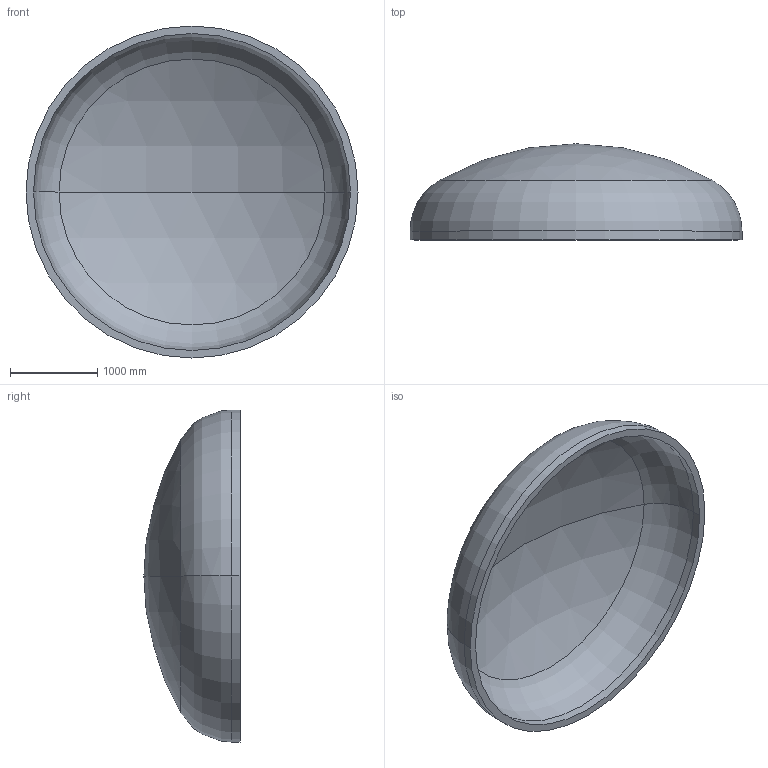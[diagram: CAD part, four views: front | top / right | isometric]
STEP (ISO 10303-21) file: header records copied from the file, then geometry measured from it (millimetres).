
FILE_DESCRIPTION (( 'STEP AP203' ), '1' );
FILE_NAME ('DIN 28013 Korbbogenform_-_Boden DIN 28013 - 3800 x 100 - I - s=86.step', '2016-07-01T21:43:06', ( '' ), ( '' ), 'SwSTEP 2.0', 'SolidWorks 2013', '' );
FILE_SCHEMA (( 'CONFIG_CONTROL_DESIGN' ));
Length unit declared in the file: millimetre
Products named in the file (1): DIN 28013 Korbbogenform_-_Boden DIN 28013 - 3800 x 100 - I - s=86
Bounding box: 3800 x 1100.77 x 3800 mm (x, y, z)
Volume: 1411505450.8 mm3; surface area: 33844624.1 mm2
Topology: 1 solids, 1 shells, 13 faces, 24 edges, 14 vertices
Faces by surface type: torus 4, cylinder 4, sphere 4, plane 1
Entity records: 407 total; most frequent: DIRECTION 72, CARTESIAN_POINT 52, ORIENTED_EDGE 48, AXIS2_PLACEMENT_3D 34, EDGE_CURVE 24, CIRCLE 20, VERTEX_POINT 14, EDGE_LOOP 14
